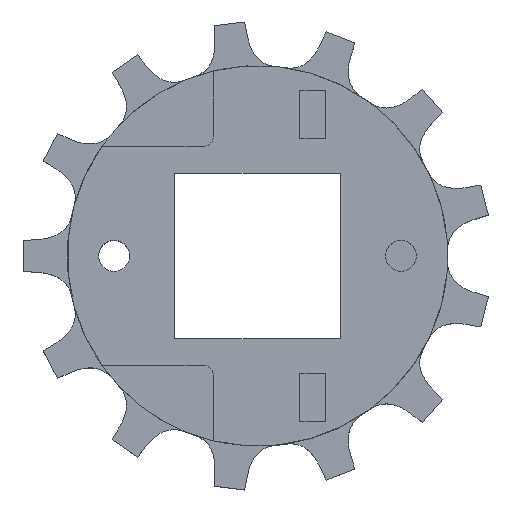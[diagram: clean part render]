
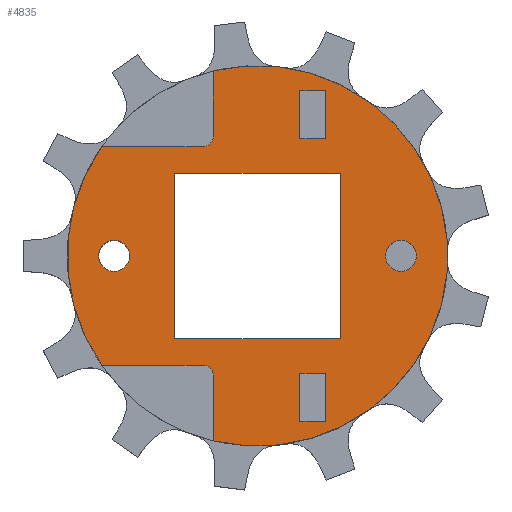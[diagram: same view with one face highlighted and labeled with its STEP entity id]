
A CAD part, top view. The second image highlights one B-rep face of the part: STEP entity #4835.
In plain terms, the highlighted planar face has unit normal (0, 0, 1).
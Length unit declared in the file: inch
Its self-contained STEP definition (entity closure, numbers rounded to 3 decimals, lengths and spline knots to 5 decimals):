
#1531=DIRECTION('',(-1.,0.,0.));
#1532=VECTOR('',#1531,0.91724);
#1533=CARTESIAN_POINT('',(-0.494,0.99,0.74));
#1534=LINE('',#1533,#1532);
#1535=CARTESIAN_POINT('',(-0.494,1.084,0.74));
#1536=DIRECTION('',(0.,0.,-1.));
#1537=DIRECTION('',(1.,0.,0.));
#1538=AXIS2_PLACEMENT_3D('',#1535,#1536,#1537);
#1540=DIRECTION('',(0.,-1.,0.));
#1541=VECTOR('',#1540,0.59282);
#1542=CARTESIAN_POINT('',(-0.4,1.67682,0.74));
#1543=LINE('',#1542,#1541);
#1544=CARTESIAN_POINT('',(0.,0.,0.74));
#1545=DIRECTION('',(0.,0.,1.));
#1546=DIRECTION('',(-0.232,-0.973,0.));
#1547=AXIS2_PLACEMENT_3D('',#1544,#1545,#1546);
#1549=DIRECTION('',(0.,-1.,0.));
#1550=VECTOR('',#1549,0.59282);
#1551=CARTESIAN_POINT('',(-0.4,-1.084,0.74));
#1552=LINE('',#1551,#1550);
#1553=CARTESIAN_POINT('',(-0.494,-1.084,0.74));
#1554=DIRECTION('',(0.,0.,-1.));
#1555=DIRECTION('',(0.,1.,0.));
#1556=AXIS2_PLACEMENT_3D('',#1553,#1554,#1555);
#1558=DIRECTION('',(1.,0.,0.));
#1559=VECTOR('',#1558,0.91724);
#1560=CARTESIAN_POINT('',(-1.41124,-0.99,0.74));
#1561=LINE('',#1560,#1559);
#1562=CARTESIAN_POINT('',(0.,0.,0.74));
#1563=DIRECTION('',(0.,0.,1.));
#1564=DIRECTION('',(-0.819,0.574,0.));
#1565=AXIS2_PLACEMENT_3D('',#1562,#1563,#1564);
#1567=DIRECTION('',(0.,-1.,0.));
#1568=VECTOR('',#1567,0.436);
#1569=CARTESIAN_POINT('',(0.384,1.498,0.74));
#1570=LINE('',#1569,#1568);
#1571=DIRECTION('',(1.,0.,0.));
#1572=VECTOR('',#1571,0.23);
#1573=CARTESIAN_POINT('',(0.384,1.062,0.74));
#1574=LINE('',#1573,#1572);
#1575=DIRECTION('',(0.,1.,0.));
#1576=VECTOR('',#1575,0.436);
#1577=CARTESIAN_POINT('',(0.614,1.062,0.74));
#1578=LINE('',#1577,#1576);
#1579=DIRECTION('',(-1.,0.,0.));
#1580=VECTOR('',#1579,0.23);
#1581=CARTESIAN_POINT('',(0.614,1.498,0.74));
#1582=LINE('',#1581,#1580);
#1583=DIRECTION('',(0.,-1.,0.));
#1584=VECTOR('',#1583,0.436);
#1585=CARTESIAN_POINT('',(0.384,-1.062,0.74));
#1586=LINE('',#1585,#1584);
#1587=DIRECTION('',(1.,0.,0.));
#1588=VECTOR('',#1587,0.23);
#1589=CARTESIAN_POINT('',(0.384,-1.498,0.74));
#1590=LINE('',#1589,#1588);
#1591=DIRECTION('',(0.,1.,0.));
#1592=VECTOR('',#1591,0.436);
#1593=CARTESIAN_POINT('',(0.614,-1.498,0.74));
#1594=LINE('',#1593,#1592);
#1595=DIRECTION('',(-1.,0.,0.));
#1596=VECTOR('',#1595,0.23);
#1597=CARTESIAN_POINT('',(0.614,-1.062,0.74));
#1598=LINE('',#1597,#1596);
#1599=CARTESIAN_POINT('',(-1.3,0.,0.74));
#1600=DIRECTION('',(0.,0.,1.));
#1601=DIRECTION('',(0.,1.,0.));
#1602=AXIS2_PLACEMENT_3D('',#1599,#1600,#1601);
#1604=CARTESIAN_POINT('',(-1.3,0.,0.74));
#1605=DIRECTION('',(0.,0.,1.));
#1606=DIRECTION('',(0.,-1.,0.));
#1607=AXIS2_PLACEMENT_3D('',#1604,#1605,#1606);
#1609=CARTESIAN_POINT('',(1.3,0.,0.74));
#1610=DIRECTION('',(0.,0.,1.));
#1611=DIRECTION('',(0.,-1.,0.));
#1612=AXIS2_PLACEMENT_3D('',#1609,#1610,#1611);
#1614=CARTESIAN_POINT('',(1.3,0.,0.74));
#1615=DIRECTION('',(0.,0.,1.));
#1616=DIRECTION('',(0.,1.,0.));
#1617=AXIS2_PLACEMENT_3D('',#1614,#1615,#1616);
#1619=DIRECTION('',(0.,-1.,0.));
#1620=VECTOR('',#1619,1.5);
#1621=CARTESIAN_POINT('',(-0.75,0.75,0.74));
#1622=LINE('',#1621,#1620);
#1623=DIRECTION('',(1.,0.,0.));
#1624=VECTOR('',#1623,1.5);
#1625=CARTESIAN_POINT('',(-0.75,-0.75,0.74));
#1626=LINE('',#1625,#1624);
#1627=DIRECTION('',(0.,1.,0.));
#1628=VECTOR('',#1627,1.5);
#1629=CARTESIAN_POINT('',(0.75,-0.75,0.74));
#1630=LINE('',#1629,#1628);
#1631=DIRECTION('',(-1.,0.,0.));
#1632=VECTOR('',#1631,1.5);
#1633=CARTESIAN_POINT('',(0.75,0.75,0.74));
#1634=LINE('',#1633,#1632);
#2447=CARTESIAN_POINT('',(-0.75,0.75,0.74));
#2449=VERTEX_POINT('',#2447);
#2451=CARTESIAN_POINT('',(-0.75,-0.75,0.74));
#2453=VERTEX_POINT('',#2451);
#2455=CARTESIAN_POINT('',(0.75,-0.75,0.74));
#2457=VERTEX_POINT('',#2455);
#2459=CARTESIAN_POINT('',(0.75,0.75,0.74));
#2461=VERTEX_POINT('',#2459);
#2471=CARTESIAN_POINT('',(-0.4,-1.67682,0.74));
#2472=CARTESIAN_POINT('',(-0.4,1.67682,0.74));
#2473=VERTEX_POINT('',#2471);
#2474=VERTEX_POINT('',#2472);
#2475=CARTESIAN_POINT('',(-1.41124,0.99,0.74));
#2476=CARTESIAN_POINT('',(-1.41124,-0.99,0.74));
#2477=VERTEX_POINT('',#2475);
#2478=VERTEX_POINT('',#2476);
#2487=CARTESIAN_POINT('',(-0.4,-1.084,0.74));
#2488=VERTEX_POINT('',#2487);
#2489=CARTESIAN_POINT('',(-0.4,1.084,0.74));
#2490=VERTEX_POINT('',#2489);
#2491=CARTESIAN_POINT('',(-0.494,0.99,0.74));
#2492=VERTEX_POINT('',#2491);
#2493=CARTESIAN_POINT('',(-0.494,-0.99,0.74));
#2494=VERTEX_POINT('',#2493);
#2527=CARTESIAN_POINT('',(0.384,1.498,0.74));
#2528=CARTESIAN_POINT('',(0.384,1.062,0.74));
#2529=VERTEX_POINT('',#2527);
#2530=VERTEX_POINT('',#2528);
#2531=CARTESIAN_POINT('',(0.614,1.062,0.74));
#2532=VERTEX_POINT('',#2531);
#2533=CARTESIAN_POINT('',(0.614,1.498,0.74));
#2534=VERTEX_POINT('',#2533);
#2535=CARTESIAN_POINT('',(0.384,-1.062,0.74));
#2536=CARTESIAN_POINT('',(0.384,-1.498,0.74));
#2537=VERTEX_POINT('',#2535);
#2538=VERTEX_POINT('',#2536);
#2539=CARTESIAN_POINT('',(0.614,-1.498,0.74));
#2540=VERTEX_POINT('',#2539);
#2541=CARTESIAN_POINT('',(0.614,-1.062,0.74));
#2542=VERTEX_POINT('',#2541);
#2607=CARTESIAN_POINT('',(-1.3,0.1405,0.74));
#2608=CARTESIAN_POINT('',(-1.3,-0.1405,0.74));
#2609=VERTEX_POINT('',#2607);
#2610=VERTEX_POINT('',#2608);
#2619=CARTESIAN_POINT('',(1.3,-0.1405,0.74));
#2620=CARTESIAN_POINT('',(1.3,0.1405,0.74));
#2621=VERTEX_POINT('',#2619);
#2622=VERTEX_POINT('',#2620);
#4775=CARTESIAN_POINT('',(0.,0.,0.74));
#4776=DIRECTION('',(0.,0.,1.));
#4777=DIRECTION('',(1.,0.,0.));
#4778=AXIS2_PLACEMENT_3D('',#4775,#4776,#4777);
#4779=PLANE('',#4778);
#4780=ORIENTED_EDGE('',*,*,#4689,.F.);
#4781=ORIENTED_EDGE('',*,*,#4718,.F.);
#4782=ORIENTED_EDGE('',*,*,#4745,.F.);
#4783=ORIENTED_EDGE('',*,*,#2680,.F.);
#4785=ORIENTED_EDGE('',*,*,#4784,.F.);
#4787=ORIENTED_EDGE('',*,*,#4786,.F.);
#4789=ORIENTED_EDGE('',*,*,#4788,.F.);
#4790=ORIENTED_EDGE('',*,*,#2672,.F.);
#4791=EDGE_LOOP('',(#4780,#4781,#4782,#4783,#4785,#4787,#4789,#4790));
#4792=FACE_OUTER_BOUND('',#4791,.F.);
#4794=ORIENTED_EDGE('',*,*,#4793,.T.);
#4796=ORIENTED_EDGE('',*,*,#4795,.T.);
#4798=ORIENTED_EDGE('',*,*,#4797,.T.);
#4800=ORIENTED_EDGE('',*,*,#4799,.T.);
#4801=EDGE_LOOP('',(#4794,#4796,#4798,#4800));
#4802=FACE_BOUND('',#4801,.F.);
#4804=ORIENTED_EDGE('',*,*,#4803,.T.);
#4806=ORIENTED_EDGE('',*,*,#4805,.T.);
#4808=ORIENTED_EDGE('',*,*,#4807,.T.);
#4810=ORIENTED_EDGE('',*,*,#4809,.T.);
#4811=EDGE_LOOP('',(#4804,#4806,#4808,#4810));
#4812=FACE_BOUND('',#4811,.F.);
#4814=ORIENTED_EDGE('',*,*,#4813,.T.);
#4816=ORIENTED_EDGE('',*,*,#4815,.T.);
#4817=EDGE_LOOP('',(#4814,#4816));
#4818=FACE_BOUND('',#4817,.F.);
#4820=ORIENTED_EDGE('',*,*,#4819,.T.);
#4822=ORIENTED_EDGE('',*,*,#4821,.T.);
#4823=EDGE_LOOP('',(#4820,#4822));
#4824=FACE_BOUND('',#4823,.F.);
#4826=ORIENTED_EDGE('',*,*,#4825,.T.);
#4828=ORIENTED_EDGE('',*,*,#4827,.T.);
#4830=ORIENTED_EDGE('',*,*,#4829,.T.);
#4832=ORIENTED_EDGE('',*,*,#4831,.T.);
#4833=EDGE_LOOP('',(#4826,#4828,#4830,#4832));
#4834=FACE_BOUND('',#4833,.F.);
#4835=ADVANCED_FACE('',(#4792,#4802,#4812,#4818,#4824,#4834),#4779,.T.);
#1539=CIRCLE('',#1538,0.094);
#1548=CIRCLE('',#1547,1.72387);
#1557=CIRCLE('',#1556,0.094);
#1566=CIRCLE('',#1565,1.72387);
#1603=CIRCLE('',#1602,0.1405);
#1608=CIRCLE('',#1607,0.1405);
#1613=CIRCLE('',#1612,0.1405);
#1618=CIRCLE('',#1617,0.1405);
#2672=EDGE_CURVE('',#2477,#2478,#1566,.T.);
#2680=EDGE_CURVE('',#2473,#2474,#1548,.T.);
#4689=EDGE_CURVE('',#2492,#2477,#1534,.T.);
#4718=EDGE_CURVE('',#2490,#2492,#1539,.T.);
#4745=EDGE_CURVE('',#2474,#2490,#1543,.T.);
#4784=EDGE_CURVE('',#2488,#2473,#1552,.T.);
#4786=EDGE_CURVE('',#2494,#2488,#1557,.T.);
#4788=EDGE_CURVE('',#2478,#2494,#1561,.T.);
#4793=EDGE_CURVE('',#2529,#2530,#1570,.T.);
#4795=EDGE_CURVE('',#2530,#2532,#1574,.T.);
#4797=EDGE_CURVE('',#2532,#2534,#1578,.T.);
#4799=EDGE_CURVE('',#2534,#2529,#1582,.T.);
#4803=EDGE_CURVE('',#2537,#2538,#1586,.T.);
#4805=EDGE_CURVE('',#2538,#2540,#1590,.T.);
#4807=EDGE_CURVE('',#2540,#2542,#1594,.T.);
#4809=EDGE_CURVE('',#2542,#2537,#1598,.T.);
#4813=EDGE_CURVE('',#2609,#2610,#1603,.T.);
#4815=EDGE_CURVE('',#2610,#2609,#1608,.T.);
#4819=EDGE_CURVE('',#2621,#2622,#1613,.T.);
#4821=EDGE_CURVE('',#2622,#2621,#1618,.T.);
#4825=EDGE_CURVE('',#2449,#2453,#1622,.T.);
#4827=EDGE_CURVE('',#2453,#2457,#1626,.T.);
#4829=EDGE_CURVE('',#2457,#2461,#1630,.T.);
#4831=EDGE_CURVE('',#2461,#2449,#1634,.T.);
